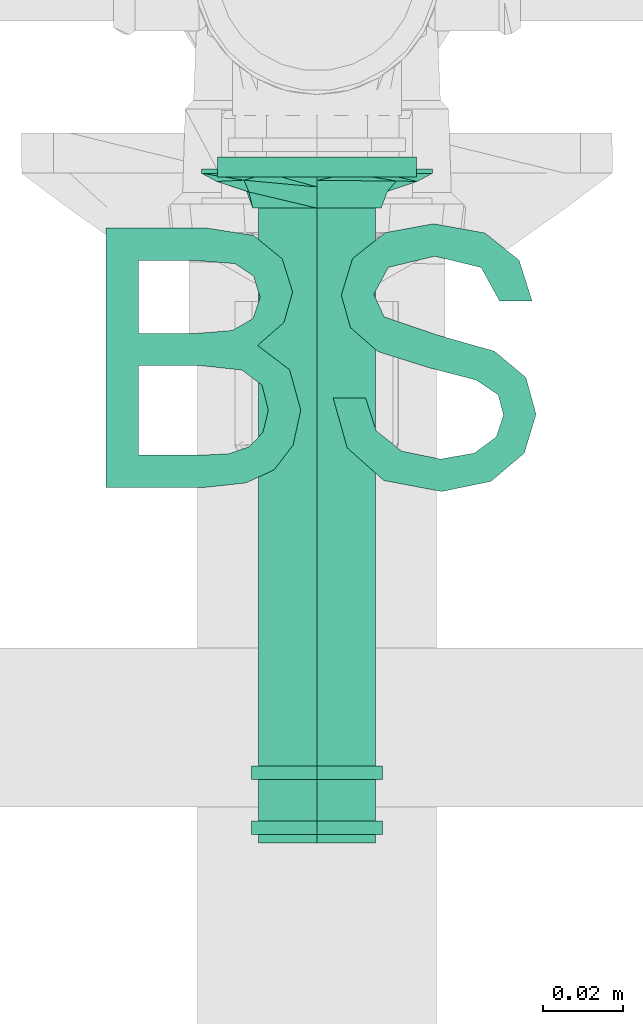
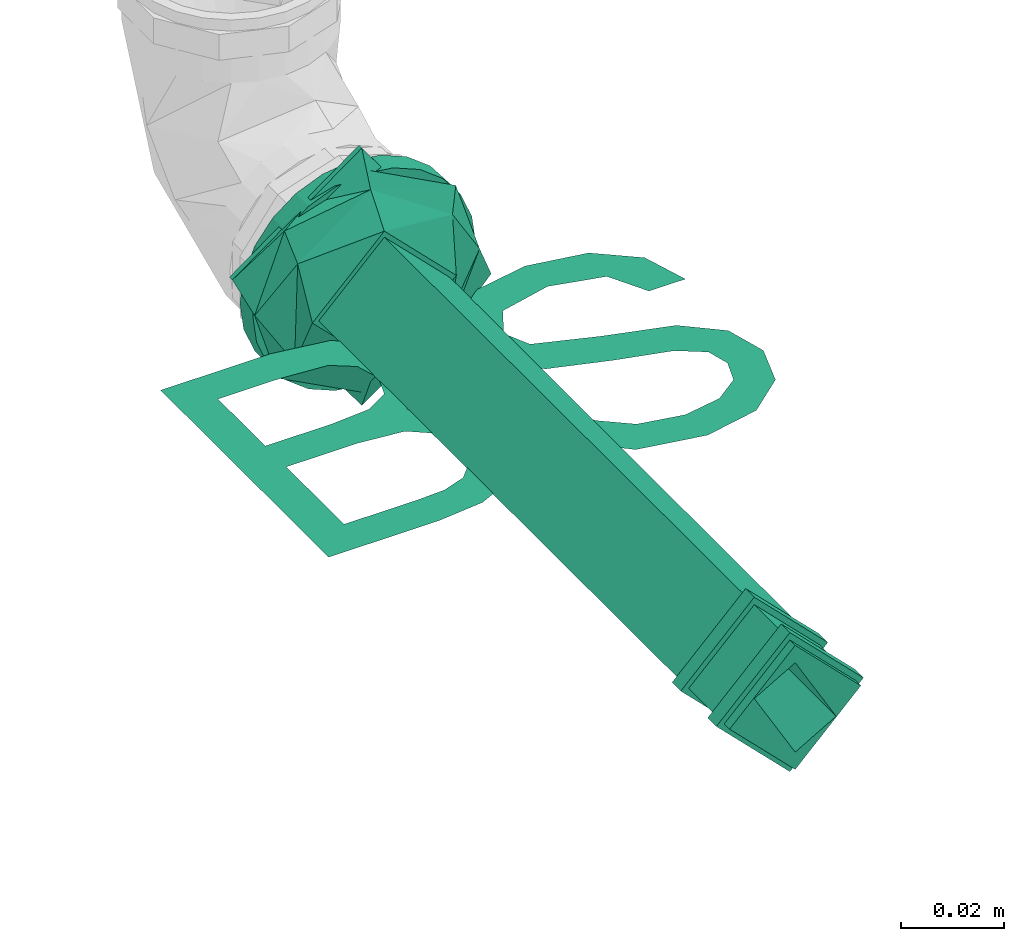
# One storey, part 284 of 589: 1 flow fitting, 1 flow terminal.
"""IFC2X3 building model written with IfcOpenShell, lengths in millimetres."""

from ifc_helpers import new_model, entity, si_unit, converted_unit, derived_unit, direction, frame, origin, place, context, subcontext, project, spatial, face_set, faceted_brep, surface_model, source, transform, mapped, material, type_object, type_shapes, element, save


model = new_model("IFC2X3")

# Units and contexts
model_context = context("Model", 3, precision=0.01, world=origin(), true_north=direction((6.123031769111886e-17, 1.0)))
body_context = subcontext(model_context, "Body", "Model", "MODEL_VIEW")
ifc_project = project(units=[si_unit("LENGTHUNIT", "METRE", prefix="MILLI"), si_unit("AREAUNIT", "SQUARE_METRE"), si_unit("VOLUMEUNIT", "CUBIC_METRE"), converted_unit("PLANEANGLEUNIT", "DEGREE", entity("IfcRatioMeasure", 0.017453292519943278), si_unit("PLANEANGLEUNIT", "RADIAN"), dimensions=[0, 0, 0, 0, 0, 0, 0]), si_unit("MASSUNIT", "GRAM", prefix="KILO"), derived_unit("MASSDENSITYUNIT", [(si_unit("MASSUNIT", "GRAM", prefix="KILO"), 1), (si_unit("LENGTHUNIT", "METRE"), -3)]), derived_unit("IONCONCENTRATIONUNIT", [(si_unit("MASSUNIT", "GRAM", prefix="KILO"), 1), (si_unit("LENGTHUNIT", "METRE"), -3)]), derived_unit("MOMENTOFINERTIAUNIT", [(si_unit("LENGTHUNIT", "METRE"), 4)]), si_unit("TIMEUNIT", "SECOND"), si_unit("FREQUENCYUNIT", "HERTZ"), si_unit("THERMODYNAMICTEMPERATUREUNIT", "DEGREE_CELSIUS"), derived_unit("THERMALTRANSMITTANCEUNIT", [(si_unit("MASSUNIT", "GRAM", prefix="KILO"), 1), (si_unit("THERMODYNAMICTEMPERATUREUNIT", "KELVIN"), -1), (si_unit("TIMEUNIT", "SECOND"), -3)]), derived_unit("THERMALCONDUCTANCEUNIT", [(si_unit("MASSUNIT", "GRAM", prefix="KILO"), 1), (si_unit("THERMODYNAMICTEMPERATUREUNIT", "KELVIN"), -1), (si_unit("TIMEUNIT", "SECOND"), -3), (si_unit("LENGTHUNIT", "METRE"), 1)]), derived_unit("VOLUMETRICFLOWRATEUNIT", [(si_unit("LENGTHUNIT", "METRE"), 3), (si_unit("TIMEUNIT", "SECOND"), -1)]), derived_unit("MASSFLOWRATEUNIT", [(si_unit("MASSUNIT", "GRAM", prefix="KILO"), 1), (si_unit("TIMEUNIT", "SECOND"), -1)]), derived_unit("ROTATIONALFREQUENCYUNIT", [(si_unit("TIMEUNIT", "SECOND"), -1)]), si_unit("ELECTRICCURRENTUNIT", "AMPERE"), si_unit("ELECTRICVOLTAGEUNIT", "VOLT"), si_unit("POWERUNIT", "WATT"), si_unit("FORCEUNIT", "NEWTON", prefix="KILO"), si_unit("ILLUMINANCEUNIT", "LUX"), si_unit("LUMINOUSFLUXUNIT", "LUMEN"), si_unit("LUMINOUSINTENSITYUNIT", "CANDELA"), derived_unit("USERDEFINED", [(si_unit("MASSUNIT", "GRAM", prefix="KILO"), -1), (si_unit("LENGTHUNIT", "METRE"), -2), (si_unit("TIMEUNIT", "SECOND"), 3), (si_unit("LUMINOUSFLUXUNIT", "LUMEN"), 1)]), derived_unit("USERDEFINED", [(si_unit("MASSUNIT", "GRAM", prefix="KILO"), 1), (si_unit("TIMEUNIT", "SECOND"), -3), (si_unit("LENGTHUNIT", "METRE"), 3), (si_unit("ELECTRICCURRENTUNIT", "AMPERE"), -2)]), derived_unit("SOUNDPOWERUNIT", [(si_unit("MASSUNIT", "GRAM", prefix="KILO"), 1), (si_unit("TIMEUNIT", "SECOND"), -3), (si_unit("LENGTHUNIT", "METRE"), 2)]), derived_unit("SOUNDPRESSUREUNIT", [(si_unit("MASSUNIT", "GRAM", prefix="KILO"), 1), (si_unit("LENGTHUNIT", "METRE"), -1), (si_unit("TIMEUNIT", "SECOND"), -2)]), derived_unit("LINEARVELOCITYUNIT", [(si_unit("LENGTHUNIT", "METRE"), 1), (si_unit("TIMEUNIT", "SECOND"), -1)]), si_unit("PRESSUREUNIT", "PASCAL"), derived_unit("USERDEFINED", [(si_unit("MASSUNIT", "GRAM", prefix="KILO"), 1), (si_unit("LENGTHUNIT", "METRE"), -2), (si_unit("TIMEUNIT", "SECOND"), -2)]), derived_unit("LINEARFORCEUNIT", [(si_unit("MASSUNIT", "GRAM", prefix="KILO"), 1), (si_unit("TIMEUNIT", "SECOND"), -2)]), derived_unit("PLANARFORCEUNIT", [(si_unit("MASSUNIT", "GRAM", prefix="KILO"), 1), (si_unit("LENGTHUNIT", "METRE"), -1), (si_unit("TIMEUNIT", "SECOND"), -2)]), derived_unit("SPECIFICHEATCAPACITYUNIT", [(si_unit("THERMODYNAMICTEMPERATUREUNIT", "KELVIN"), -1), (si_unit("LENGTHUNIT", "METRE"), 2), (si_unit("TIMEUNIT", "SECOND"), -2)]), derived_unit("HEATINGVALUEUNIT", [(si_unit("LENGTHUNIT", "METRE"), 2), (si_unit("TIMEUNIT", "SECOND"), -2)]), derived_unit("VAPORPERMEABILITYUNIT", [(si_unit("LENGTHUNIT", "METRE"), -1), (si_unit("TIMEUNIT", "SECOND"), 1)]), derived_unit("DYNAMICVISCOSITYUNIT", [(si_unit("MASSUNIT", "GRAM", prefix="KILO"), 1), (si_unit("TIMEUNIT", "SECOND"), -1), (si_unit("LENGTHUNIT", "METRE"), -1)]), derived_unit("THERMALEXPANSIONCOEFFICIENTUNIT", [(si_unit("THERMODYNAMICTEMPERATUREUNIT", "KELVIN"), -1)]), derived_unit("MODULUSOFELASTICITYUNIT", [(si_unit("MASSUNIT", "GRAM", prefix="KILO"), 1), (si_unit("LENGTHUNIT", "METRE"), -1), (si_unit("TIMEUNIT", "SECOND"), -2)]), derived_unit("ISOTHERMALMOISTURECAPACITYUNIT", [(si_unit("LENGTHUNIT", "METRE"), 3), (si_unit("MASSUNIT", "GRAM", prefix="KILO"), -1)]), derived_unit("MOISTUREDIFFUSIVITYUNIT", [(si_unit("TIMEUNIT", "SECOND"), -1), (si_unit("LENGTHUNIT", "METRE"), 2)])], contexts=[model_context])

# Site, building, storey
site_placement = place(None, origin())
site = spatial("IfcSite", under=ifc_project, at=site_placement, Name="Default", CompositionType="ELEMENT")
building_placement = place(site_placement, origin())
building = spatial("IfcBuilding", under=site, at=building_placement, CompositionType="ELEMENT")
storey_placement = place(building_placement, frame((0.0, 0.0, 100.0)))
storey = spatial("IfcBuildingStorey", under=building, at=storey_placement, Name="TÉRREO", CompositionType="ELEMENT", Elevation=100.0)

# Flow fitting
ifc_material_1 = material(Name="Cromada")
pipe_fitting_type = type_object("IfcPipeFittingType", Name="Tubo de Ligação Inox com anel para vaso sanitário 25cm:Tubo de Ligação Inox com anel para vaso sanitário 25cm", PredefinedType="NOTDEFINED", material=ifc_material_1)
shared_shape_1 = source(origin(), body_context, "Body", "Brep", [
    faceted_brep([(169.50429906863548, 32.118882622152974, 13.280359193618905), (169.50429906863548, 40.79117842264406, 21.95265499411), (169.50429906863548, 49.46347422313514, 30.624950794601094), (172.4480370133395, 49.46347422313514, 30.624950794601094), (172.4480370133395, 37.891441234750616, 19.052917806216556), (172.4480370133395, 32.118882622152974, 13.280359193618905), (169.50429906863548, 23.446586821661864, 21.95265499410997), (172.4480370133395, 23.446586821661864, 21.95265499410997), (172.4480370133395, 14.774291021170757, 30.624950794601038), (169.50429906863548, 14.774291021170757, 30.624950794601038), (169.50429906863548, 32.11888262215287, 47.96954239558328), (169.50429906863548, 23.44658682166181, 39.297246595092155), (172.4480370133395, 26.346323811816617, 42.196983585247), (172.4480370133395, 32.11888262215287, 47.96954239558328), (169.50429906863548, 40.791178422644, 39.29724659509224), (172.4480370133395, 40.791178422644, 39.29724659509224), (169.50429906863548, 1.5952722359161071, 30.62495079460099), (169.50429906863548, 5.781758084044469, 27.583290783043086), (169.50429906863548, 4.910115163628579, 35.18744066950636), (169.50429906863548, 11.584253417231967, 23.367531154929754), (169.50429906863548, 16.578744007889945, 19.738821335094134), (169.50429906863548, 21.57323459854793, 16.11011151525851), (169.50429906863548, 26.567725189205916, 12.481401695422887), (169.50429906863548, 31.56221577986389, 8.852691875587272), (169.50429906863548, 36.55670637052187, 5.223982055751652), (169.50429906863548, 41.55119696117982, 1.5952722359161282), (169.50429906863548, 44.18760896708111, 5.2239820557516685), (169.50429906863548, 46.82402097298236, 8.852691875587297), (169.50429906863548, 49.46043297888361, 12.481401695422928), (169.50429906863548, 52.09684498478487, 16.110111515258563), (169.50429906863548, 56.012807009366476, 21.499970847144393), (169.50429906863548, 59.32765000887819, 26.062460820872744), (169.50429906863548, 62.642493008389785, 30.624950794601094), (169.50429906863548, 58.45600728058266, 33.666610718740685), (169.50429906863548, 52.65351182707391, 37.882370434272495), (169.50429906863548, 47.65902123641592, 41.511080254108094), (169.50429906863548, 42.66453064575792, 45.139790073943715), (169.50429906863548, 37.67004005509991, 48.76849989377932), (169.50429906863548, 32.67554946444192, 52.39720971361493), (169.50429906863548, 27.681058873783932, 56.025919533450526), (169.50429906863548, 22.686568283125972, 59.654629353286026), (169.50429906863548, 20.0501562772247, 56.025919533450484), (169.50429906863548, 17.41374427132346, 52.39720971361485), (169.50429906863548, 14.777332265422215, 48.76849989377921), (169.50429906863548, 12.140920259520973, 45.139790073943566), (169.50429906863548, 8.224958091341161, 39.749930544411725), (19.27578185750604, 46.84025664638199, 30.624950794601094), (159.6299658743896, 46.84025664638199, 30.624950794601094), (159.6299658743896, 41.249188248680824, 25.03388239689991), (159.6299658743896, 32.118882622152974, 15.903576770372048), (19.27578185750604, 32.118882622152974, 15.903576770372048), (19.27578185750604, 39.479569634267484, 23.26426378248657), (2.0682862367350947, 46.8402566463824, 30.624950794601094), (2.0682862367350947, 39.47956963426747, 23.26426378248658), (2.0682862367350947, 32.11888262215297, 15.903576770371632), (0.0, 32.11888262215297, 15.903576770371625), (0.0, 39.47956963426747, 23.26426378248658), (0.0, 46.840256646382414, 30.624950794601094), (15.901727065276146, 46.84025664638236, 30.624950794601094), (15.901727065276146, 39.47956963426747, 23.26426378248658), (15.901727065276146, 32.11888262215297, 15.903576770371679), (5.4423410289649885, 32.11888262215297, 15.903576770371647), (5.4423410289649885, 39.47956963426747, 23.26426378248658), (5.4423410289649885, 46.840256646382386, 30.624950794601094), (19.27578185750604, 24.758195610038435, 23.264263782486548), (159.6299658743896, 24.758195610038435, 23.264263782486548), (159.6299658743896, 17.3975085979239, 30.624950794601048), (19.27578185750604, 17.3975085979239, 30.624950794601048), (2.0682862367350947, 22.728055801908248, 25.29440359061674), (2.0682862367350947, 17.39750859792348, 30.624950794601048), (0.0, 17.39750859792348, 30.624950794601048), (0.0, 24.75819561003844, 23.26426378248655), (15.901727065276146, 22.728055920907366, 25.294403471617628), (15.901727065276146, 17.397508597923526, 30.624950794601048), (5.4423410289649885, 17.3975085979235, 30.624950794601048), (5.4423410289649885, 24.75819561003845, 23.26426378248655), (19.275781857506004, 24.758195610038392, 37.985637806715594), (159.6299658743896, 22.98857663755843, 36.21601883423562), (159.6299658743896, 32.118882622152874, 45.34632481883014), (19.27578185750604, 32.118882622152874, 45.34632481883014), (2.0682862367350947, 24.758195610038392, 37.98563780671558), (2.0682862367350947, 32.118882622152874, 45.34632481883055), (0.0, 32.118882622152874, 45.34632481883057), (0.0, 24.7581956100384, 37.98563780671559), (15.901727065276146, 24.7581956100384, 37.98563780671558), (15.901727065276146, 32.118882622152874, 45.3463248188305), (5.4423410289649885, 32.118882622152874, 45.34632481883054), (5.4423410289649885, 24.758195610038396, 37.98563780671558), (19.27578185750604, 39.47956963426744, 37.98563780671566), (159.6299658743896, 39.47956963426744, 37.98563780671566), (2.0682862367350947, 41.50970944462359, 35.95549799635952), (0.0, 39.47956963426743, 37.98563780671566), (15.901727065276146, 41.509709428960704, 35.955498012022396), (5.4423410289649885, 39.47956963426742, 37.98563780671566), (0.0, 21.519458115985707, 30.624950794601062), (0.0, 37.41859487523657, 21.44557990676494), (0.0, 26.819170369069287, 39.80432168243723), (0.0, 42.718307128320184, 30.624950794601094), (172.4480370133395, 37.418594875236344, 21.44557990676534), (172.4480370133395, 42.71830712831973, 30.624950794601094), (172.4480370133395, 21.51945811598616, 30.624950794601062), (172.4480370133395, 26.819170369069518, 39.80432168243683), (5.4423410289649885, 15.622913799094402, 30.624950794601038), (5.4423410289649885, 26.90830271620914, 19.33956187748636), (5.4423410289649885, 32.118882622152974, 14.12898197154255), (5.4423410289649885, 23.870898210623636, 38.872935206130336), (5.4423410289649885, 32.11888262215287, 47.12091961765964), (5.4423410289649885, 40.366867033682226, 22.376966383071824), (5.4423410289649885, 48.614851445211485, 30.624950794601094), (5.4423410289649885, 37.3294625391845, 41.910339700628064), (2.0682862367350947, 32.118882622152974, 14.128981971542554), (2.0682862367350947, 40.366867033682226, 22.376966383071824), (2.0682862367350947, 48.614851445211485, 30.624950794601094), (19.27578185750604, 48.614851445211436, 30.624950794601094), (19.27578185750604, 40.3668670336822, 22.376966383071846), (19.27578185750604, 32.118882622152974, 14.128981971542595), (15.901727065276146, 32.11888262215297, 14.1289819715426), (15.901727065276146, 40.3668670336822, 22.376966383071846), (15.901727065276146, 48.614851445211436, 30.624950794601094), (2.0682862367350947, 15.622913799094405, 30.624950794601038), (2.0682862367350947, 23.87089821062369, 22.376966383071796), (19.27578185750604, 26.908302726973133, 19.339561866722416), (19.27578185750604, 15.622913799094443, 30.62495079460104), (15.901727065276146, 15.622913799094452, 30.624950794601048), (15.901727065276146, 23.87089821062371, 22.37696638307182), (2.0682862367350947, 32.11888262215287, 47.12091961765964), (2.0682862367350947, 23.87089821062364, 38.872935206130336), (19.275781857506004, 23.870898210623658, 38.87293520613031), (19.27578185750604, 32.11888262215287, 47.12091961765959), (15.901727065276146, 32.11888262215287, 47.12091961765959), (15.901727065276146, 23.870898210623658, 38.87293520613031), (2.0682862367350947, 40.36686703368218, 38.872935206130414), (19.27578185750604, 37.329462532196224, 41.91033970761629), (15.901727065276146, 40.366867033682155, 38.87293520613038), (168.38578825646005, 41.55119696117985, 1.595272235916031), (168.38578825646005, 44.18760896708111, 5.22398205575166), (168.38578825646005, 46.82402097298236, 8.852691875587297), (168.38578825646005, 49.46043297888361, 12.481401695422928), (168.38578825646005, 52.09684498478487, 16.110111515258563), (168.38578825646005, 53.711986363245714, 18.333162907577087), (168.38578825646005, 54.73325699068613, 19.738821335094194), (168.38578825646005, 57.36966899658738, 23.367531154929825), (168.38578825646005, 59.32765000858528, 26.062460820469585), (168.38578825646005, 62.64249300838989, 30.624950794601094), (168.38578825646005, 1.5952722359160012, 30.62495079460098), (168.38578825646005, 5.781758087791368, 27.583290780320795), (168.38578825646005, 9.968243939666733, 24.5416307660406), (168.38578825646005, 12.874069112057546, 22.430425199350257), (168.38578825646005, 14.15472979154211, 21.499970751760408), (168.38578825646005, 18.34121564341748, 18.458310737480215), (168.38578825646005, 24.143710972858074, 14.24255111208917), (168.38578825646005, 29.946206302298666, 10.02679148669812), (168.38578825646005, 35.74870163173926, 5.81103186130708), (168.38578825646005, 22.686568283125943, 59.654629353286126), (168.38578825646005, 20.050156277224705, 56.02591953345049), (168.38578825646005, 17.413744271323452, 52.397209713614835), (168.38578825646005, 14.777332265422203, 48.76849989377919), (168.38578825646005, 12.140920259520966, 45.13979007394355), (168.38578825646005, 10.525778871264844, 42.91673866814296), (168.38578825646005, 9.504508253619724, 41.51108025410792), (168.38578825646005, 6.86809624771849, 37.88237043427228), (168.38578825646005, 4.910115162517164, 35.18744066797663), (168.38578825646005, 58.45600728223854, 33.66661071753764), (168.38578825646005, 54.2695215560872, 36.708270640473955), (168.38578825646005, 51.36369660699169, 38.819476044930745), (168.38578825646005, 50.08303582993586, 39.749930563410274), (168.38578825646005, 45.89655010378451, 42.79159048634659), (168.38578825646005, 40.09405464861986, 47.00735020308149), (168.38578825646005, 34.29155919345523, 51.22310991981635), (168.38578825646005, 28.489063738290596, 55.43886963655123), (166.65864206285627, 50.44475613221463, 12.263416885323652), (159.6299658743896, 15.96921284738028, 30.62495079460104), (163.8332882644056, 20.75825967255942, 12.912536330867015), (164.9550277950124, 9.359195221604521, 30.62495079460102), (166.32560403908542, 33.03016188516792, 5.39284694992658), (159.6299658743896, 48.26855239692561, 30.624950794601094), (164.9550277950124, 54.878570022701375, 30.624950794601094), (163.6875401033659, 44.02352865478, 13.52475711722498), (159.6299658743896, 32.118882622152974, 14.475281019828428), (166.58567026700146, 58.56876719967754, 30.62495079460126), (166.45278398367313, 16.238491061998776, 10.662693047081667), (166.58567029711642, 5.668997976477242, 30.62495079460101), (166.65864196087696, 13.793009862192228, 48.98648514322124), (166.32560414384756, 31.20760459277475, 55.857054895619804), (163.83328832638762, 43.47950586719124, 48.33736517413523), (163.68754020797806, 20.214236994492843, 47.725144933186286), (159.6299658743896, 32.11888262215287, 46.77462056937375), (166.45278399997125, 47.99927477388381, 50.5872081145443)], [[[0, 1, 2, 3, 4, 5]], [[6, 0, 5, 7, 8, 9]], [[10, 11, 9, 8, 12, 13]], [[14, 10, 13, 15, 3, 2]], [[16, 0, 6]], [[0, 16, 17]], [[16, 6, 9]], [[9, 18, 16]], [[0, 17, 19]], [[0, 19, 20]], [[0, 20, 21]], [[0, 21, 22]], [[0, 22, 23]], [[0, 23, 24]], [[0, 24, 25]], [[25, 1, 0]], [[25, 2, 1]], [[2, 25, 26]], [[2, 26, 27]], [[2, 27, 28]], [[2, 28, 29]], [[2, 29, 30]], [[2, 30, 31]], [[2, 31, 32]], [[32, 14, 2]], [[32, 10, 14]], [[10, 32, 33]], [[10, 33, 34]], [[10, 34, 35]], [[10, 35, 36]], [[10, 36, 37]], [[10, 37, 38]], [[10, 38, 39]], [[10, 39, 40]], [[9, 40, 41]], [[40, 9, 11]], [[40, 11, 10]], [[9, 41, 42]], [[9, 42, 43]], [[9, 43, 44]], [[9, 44, 45]], [[9, 45, 18]], [[46, 47, 48, 49, 50, 51]], [[52, 53, 54, 55, 56, 57]], [[58, 59, 60, 61, 62, 63]], [[64, 50, 49, 65, 66, 67]], [[54, 68, 69, 70, 71, 55]], [[60, 72, 73, 74, 75, 61]], [[76, 67, 66, 77, 78, 79]], [[69, 80, 81, 82, 83, 70]], [[73, 84, 85, 86, 87, 74]], [[88, 79, 78, 89, 47, 46]], [[81, 90, 52, 57, 91, 82]], [[85, 92, 58, 63, 93, 86]], [[94, 55, 71]], [[55, 94, 95]], [[94, 71, 70]], [[70, 96, 94]], [[95, 56, 55]], [[95, 57, 56]], [[95, 97, 57]], [[82, 97, 96]], [[97, 82, 91]], [[97, 91, 57]], [[96, 70, 83]], [[96, 83, 82]], [[98, 99, 97, 95]], [[94, 100, 98, 95]], [[101, 100, 94, 96]], [[97, 99, 101, 96]], [[100, 8, 7]], [[100, 101, 8]], [[100, 7, 5]], [[98, 100, 5]], [[101, 12, 8]], [[101, 13, 12]], [[101, 99, 13]], [[3, 99, 98]], [[99, 3, 15]], [[99, 15, 13]], [[98, 5, 4]], [[98, 4, 3]], [[74, 102, 103]], [[74, 103, 104]], [[104, 75, 74]], [[74, 105, 102]], [[74, 106, 105]], [[106, 74, 87]], [[106, 87, 86]], [[106, 86, 93]], [[106, 93, 63]], [[63, 104, 107]], [[104, 63, 62]], [[63, 107, 108]], [[63, 108, 109]], [[63, 109, 106]], [[104, 62, 61]], [[104, 61, 75]], [[108, 107, 104, 110, 111, 112]], [[113, 114, 115, 116, 117, 118]], [[110, 104, 103, 102, 119, 120]], [[116, 115, 121, 122, 123, 124]], [[102, 105, 106, 125, 126, 119]], [[122, 127, 128, 129, 130, 123]], [[125, 106, 109, 108, 112, 131]], [[129, 128, 132, 113, 118, 133]], [[69, 110, 120]], [[110, 69, 68]], [[69, 120, 119]], [[69, 119, 126]], [[69, 126, 125]], [[125, 80, 69]], [[110, 68, 54]], [[110, 54, 53]], [[110, 53, 52]], [[52, 125, 131]], [[125, 52, 90]], [[52, 111, 110]], [[52, 112, 111]], [[52, 131, 112]], [[125, 90, 81]], [[125, 81, 80]], [[27, 26, 25, 134, 135, 136, 137, 138, 139, 140, 141, 142, 143, 32, 31, 30, 29, 28]], [[19, 17, 16, 144, 145, 146, 147, 148, 149, 150, 151, 152, 134, 25, 24, 23, 22, 21, 20]], [[42, 41, 40, 153, 154, 155, 156, 157, 158, 159, 160, 161, 144, 16, 18, 45, 44, 43]], [[32, 143, 162, 163, 164, 165, 166, 167, 168, 169, 153, 40, 39, 38, 37, 36, 35, 34, 33]], [[170, 139, 138, 137, 136, 135, 134]], [[171, 172, 173]], [[174, 170, 134]], [[175, 176, 177]], [[177, 178, 175]], [[142, 141, 140, 139, 176, 179, 143]], [[174, 172, 177]], [[178, 177, 172]], [[174, 180, 172]], [[178, 172, 171]], [[174, 134, 152, 151, 150]], [[174, 150, 180]], [[170, 177, 176]], [[181, 180, 147]], [[177, 170, 174]], [[139, 170, 176]], [[181, 173, 180]], [[173, 172, 180]], [[180, 150, 149, 148, 147]], [[181, 147, 146, 145, 144]], [[182, 158, 157, 156, 155, 154, 153]], [[183, 184, 185]], [[183, 182, 153]], [[171, 173, 185]], [[185, 186, 171]], [[175, 184, 176]], [[183, 187, 184]], [[186, 185, 184]], [[179, 187, 164]], [[186, 184, 175]], [[183, 153, 169, 168, 167]], [[183, 167, 187]], [[182, 185, 173]], [[161, 160, 159, 158, 173, 181, 144]], [[185, 182, 183]], [[158, 182, 173]], [[179, 176, 187]], [[176, 184, 187]], [[187, 167, 166, 165, 164]], [[179, 164, 163, 162, 143]], [[178, 171, 66]], [[178, 66, 65]], [[178, 65, 49]], [[178, 49, 48]], [[178, 48, 47]], [[178, 47, 175]], [[186, 66, 171]], [[186, 175, 47]], [[186, 47, 89]], [[186, 77, 66]], [[186, 78, 77]], [[186, 89, 78]], [[67, 122, 121]], [[67, 121, 115]], [[115, 64, 67]], [[67, 127, 122]], [[67, 128, 127]], [[128, 67, 76]], [[128, 76, 79]], [[128, 79, 88]], [[128, 88, 46]], [[46, 115, 114]], [[115, 46, 51]], [[46, 114, 113]], [[46, 113, 132]], [[46, 132, 128]], [[115, 51, 50]], [[115, 50, 64]], [[73, 116, 124]], [[116, 73, 72]], [[73, 124, 123]], [[73, 123, 130]], [[73, 130, 129]], [[129, 84, 73]], [[116, 72, 60]], [[116, 60, 59]], [[116, 59, 58]], [[58, 129, 133]], [[129, 58, 92]], [[58, 117, 116]], [[58, 118, 117]], [[58, 133, 118]], [[129, 92, 85]], [[129, 85, 84]]]),
])
type_shapes(pipe_fitting_type, [shared_shape_1])
flow_fitting_placement = place(storey_placement, frame((6024.193555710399, 7316.774095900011, 267.88111737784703), z_axis=(1.0, 0.0, 0.0), x_axis=(0.0, 1.0, 0.0)))
element("IfcFlowFitting", 1, at=flow_fitting_placement, inside=storey, type_object=pipe_fitting_type, material=ifc_material_1, Name="Tubo de Ligação Inox com anel para vaso sanitário 25cm:Tubo de Ligação Inox com anel para vaso sanitário 25cm", ObjectType="Tubo de Ligação Inox com anel para vaso sanitário 25cm:Tubo de Ligação Inox com anel para vaso sanitário 25cm", context=body_context, shape_type="MappedRepresentation", body=[
    mapped(shared_shape_1, transform((0.0, 0.0, 0.0), scale=1.0)),
])

# Flow terminal
ifc_material_2 = material(Name="<Unnamed>")
distribution_element_type = type_object("IfcDistributionElementType", Name="Hidráulica_Ponto de Utilização_Uso Provável_Rodrigo MEP:Bacia Sanitária com Valvula de Descarga BS (Peso 32)", material=ifc_material_2)
shared_shape_2 = source(origin(), body_context, "Body", "SurfaceModel", [
    surface_model("IfcFaceBasedSurfaceModel", [(0.0, 1.0202593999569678, 26.59527223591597), (24.7253488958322, 1.0202593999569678, 26.59527223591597), (35.19097852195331, 2.1441388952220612, 26.59527223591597), (42.29294043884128, 5.45998194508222, 26.59527223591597), (47.05149404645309, 11.709070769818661, 26.59527223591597), (48.97245119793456, 20.48489576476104, 26.59527223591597), (46.158767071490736, 30.639665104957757, 26.59527223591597), (38.116253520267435, 36.72933839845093, 26.59527223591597), (44.73996884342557, 42.5081514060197, 26.59527223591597), (46.93193239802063, 50.13618457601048, 26.59527223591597), (44.32548846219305, 58.48955841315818, 26.59527223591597), (37.119906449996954, 64.39590384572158, 26.59527223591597), (24.916647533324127, 66.31686099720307, 26.59527223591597), (0.0, 66.31686099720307, 26.59527223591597), (8.162075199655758, 39.79011659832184, 26.59527223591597), (8.162075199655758, 58.1547857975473, 26.59527223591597), (21.93557709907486, 58.1547857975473, 26.59527223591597), (32.42511905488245, 57.301912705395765, 26.59527223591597), (37.12787722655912, 54.15345596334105, 26.59527223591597), (38.76985719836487, 48.82897721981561, 26.59527223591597), (37.008315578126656, 43.51246925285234, 26.59527223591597), (31.77151537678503, 40.49154493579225, 26.59527223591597), (23.06742737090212, 39.79011659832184, 26.59527223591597), (8.162075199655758, 9.182334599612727, 26.59527223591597), (8.162075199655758, 31.62804139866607, 26.59527223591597), (24.103628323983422, 31.62804139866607, 26.59527223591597), (34.18666067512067, 30.53604500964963, 26.59527223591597), (39.24810379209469, 26.749926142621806, 26.59527223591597), (40.81037599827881, 20.405187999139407, 26.59527223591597), (39.47925631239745, 14.905352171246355, 26.59527223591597), (36.08370549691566, 11.27864883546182, 26.59527223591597), (30.958496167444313, 9.501165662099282, 26.59527223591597), (24.900705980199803, 9.182334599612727, 26.59527223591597), (57.13452639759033, 23.46596619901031, 26.59527223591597), (60.65760963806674, 10.999671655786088, 26.59527223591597), (69.8797981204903, 2.741947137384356, 26.59527223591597), (84.45834845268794, 0.0, 26.59527223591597), (96.80508134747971, 2.5426777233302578, 26.59527223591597), (105.22222139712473, 9.668551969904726, 26.59527223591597), (108.14749639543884, 19.432753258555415, 26.59527223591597), (105.60481867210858, 28.66291251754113, 26.59527223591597), (97.70577909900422, 35.27865706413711, 26.59527223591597), (83.26273196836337, 39.375636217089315, 26.59527223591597), (69.93559355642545, 43.934920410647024, 26.59527223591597), (67.33712039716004, 49.594171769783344, 26.59527223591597), (71.0036776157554, 56.369331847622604, 26.59527223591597), (82.68883605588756, 59.17504519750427, 26.59527223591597), (94.34211138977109, 56.33744874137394, 26.59527223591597), (98.9651617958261, 47.9521917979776, 26.59527223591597), (107.12723699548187, 47.9521917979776, 26.59527223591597), (103.89110171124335, 58.17072735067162, 26.59527223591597), (95.28266302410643, 65.00965364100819, 26.59527223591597), (82.37000499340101, 67.33712039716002, 26.59527223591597), (70.27036617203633, 65.11327373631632, 26.59527223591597), (62.004670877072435, 58.59317850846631, 26.59527223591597), (59.175045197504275, 49.355048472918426, 26.59527223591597), (61.462658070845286, 41.24079793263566, 26.59527223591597), (68.40520445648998, 35.167066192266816, 26.59527223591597), (81.19830083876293, 31.141824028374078, 26.59527223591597), (93.0827286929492, 28.025250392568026, 26.59527223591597), (98.63038918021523, 24.318839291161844, 26.59527223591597), (99.98542119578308, 19.225513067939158, 26.59527223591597), (98.17605491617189, 13.749589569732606, 26.59527223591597), (92.66824831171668, 9.652610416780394, 26.59527223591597), (84.13951739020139, 8.162075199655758, 26.59527223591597), (74.35140377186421, 10.130857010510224, 26.59527223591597), (67.92695786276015, 15.29592022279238, 26.59527223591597), (65.2966015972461, 23.46596619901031, 26.59527223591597), (28.053488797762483, 79.08730098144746, 26.59527223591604), (28.9053431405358, 79.08730098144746, 33.065748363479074), (31.40285370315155, 79.08730098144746, 39.095272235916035), (35.375819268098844, 79.08730098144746, 44.27294176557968), (40.553488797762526, 79.08730098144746, 48.24590733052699), (46.58301267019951, 79.08730098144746, 50.74341789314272), (53.05348879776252, 79.08730098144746, 51.59527223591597), (59.52396492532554, 79.08730098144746, 50.74341789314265), (65.55348879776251, 79.08730098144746, 48.245907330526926), (70.73115832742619, 79.08730098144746, 44.27294176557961), (74.70412389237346, 79.08730098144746, 39.09527223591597), (77.20163445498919, 79.08730098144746, 33.065748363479), (78.0534887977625, 79.08730098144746, 26.595272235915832), (77.20163445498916, 79.08730098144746, 20.124796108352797), (74.70412389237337, 79.08730098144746, 14.095272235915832), (70.73115832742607, 79.08730098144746, 8.91760270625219), (65.55348879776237, 79.08730098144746, 4.944637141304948), (59.52396492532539, 79.08730098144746, 2.447126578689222), (53.05348879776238, 79.08730098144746, 1.5952722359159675), (46.58301267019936, 79.08730098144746, 2.4471265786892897), (40.5534887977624, 79.08730098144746, 4.94463714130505), (35.37581926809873, 79.08730098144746, 8.91760270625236), (31.402853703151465, 79.08730098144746, 14.095272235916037), (28.905343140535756, 79.08730098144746, 20.124796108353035), (28.053488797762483, 84.0873009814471, 26.59527223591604), (28.9053431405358, 84.0873009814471, 33.065748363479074), (31.40285370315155, 84.0873009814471, 39.095272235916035), (35.375819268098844, 84.0873009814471, 44.27294176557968), (40.553488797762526, 84.0873009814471, 48.24590733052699), (46.58301267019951, 84.0873009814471, 50.74341789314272), (53.05348879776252, 84.0873009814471, 51.59527223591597), (59.52396492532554, 84.0873009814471, 50.74341789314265), (65.55348879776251, 84.0873009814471, 48.245907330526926), (70.73115832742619, 84.0873009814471, 44.27294176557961), (74.70412389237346, 84.0873009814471, 39.09527223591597), (77.20163445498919, 84.0873009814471, 33.065748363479), (78.0534887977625, 84.0873009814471, 26.59527223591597), (77.20163445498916, 84.0873009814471, 20.124796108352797), (74.70412389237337, 84.0873009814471, 14.095272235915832), (70.73115832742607, 84.0873009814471, 8.91760270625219), (65.55348879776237, 84.0873009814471, 4.944637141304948), (59.52396492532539, 84.0873009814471, 2.447126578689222), (53.05348879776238, 84.0873009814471, 1.5952722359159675), (46.58301267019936, 84.0873009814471, 2.4471265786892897), (40.5534887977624, 84.0873009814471, 4.94463714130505), (35.37581926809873, 84.0873009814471, 8.91760270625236), (31.402853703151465, 84.0873009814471, 14.095272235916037), (28.905343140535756, 84.0873009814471, 20.124796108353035)], [face_set([[[0, 1, 2, 3, 4, 5, 6, 7, 8, 9, 10, 11, 12, 13], [14, 15, 16, 17, 18, 19, 20, 21, 22], [23, 24, 25, 26, 27, 28, 29, 30, 31, 32]], [[33, 34, 35, 36, 37, 38, 39, 40, 41, 42, 43, 44, 45, 46, 47, 48, 49, 50, 51, 52, 53, 54, 55, 56, 57, 58, 59, 60, 61, 62, 63, 64, 65, 66, 67]]]), face_set([[[68, 69, 70, 71, 72, 73, 74, 75, 76, 77, 78, 79, 80, 81, 82, 83, 84, 85, 86, 87, 88, 89, 90, 91]], [[92, 93, 94, 95, 96, 97, 98, 99, 100, 101, 102, 103, 104, 105, 106, 107, 108, 109, 110, 111, 112, 113, 114, 115]], [[92, 115, 91, 68]], [[115, 114, 90, 91]], [[113, 112, 88, 89]], [[114, 113, 89, 90]], [[112, 111, 87, 88]], [[86, 87, 111, 110]], [[110, 109, 85, 86]], [[109, 108, 84, 85]], [[107, 106, 82, 83]], [[108, 107, 83, 84]], [[106, 105, 81, 82]], [[80, 81, 105, 104]], [[104, 103, 79, 80]], [[103, 102, 78, 79]], [[101, 100, 76, 77]], [[102, 101, 77, 78]], [[100, 99, 75, 76]], [[74, 75, 99, 98]], [[98, 97, 73, 74]], [[97, 96, 72, 73]], [[95, 94, 70, 71]], [[96, 95, 71, 72]], [[94, 93, 69, 70]], [[68, 69, 93, 92]]])]),
])
type_shapes(distribution_element_type, [shared_shape_2])
flow_terminal_placement = place(storey_placement, frame((6001.765017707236, 7405.134831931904, 273.4047277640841)))
element("IfcFlowTerminal", 2, at=flow_terminal_placement, inside=storey, type_object=distribution_element_type, material=ifc_material_2, Name="Hidráulica_Ponto de Utilização_Uso Provável_Rodrigo MEP:Bacia Sanitária com Valvula de Descarga BS (Peso 32)", ObjectType="Hidráulica_Ponto de Utilização_Uso Provável_Rodrigo MEP:Bacia Sanitária com Valvula de Descarga BS (Peso 32)", context=body_context, shape_type="MappedRepresentation", body=[
    mapped(shared_shape_2, transform((0.0, 0.0, 0.0), scale=1.0)),
])

save(model, "model.ifc")
